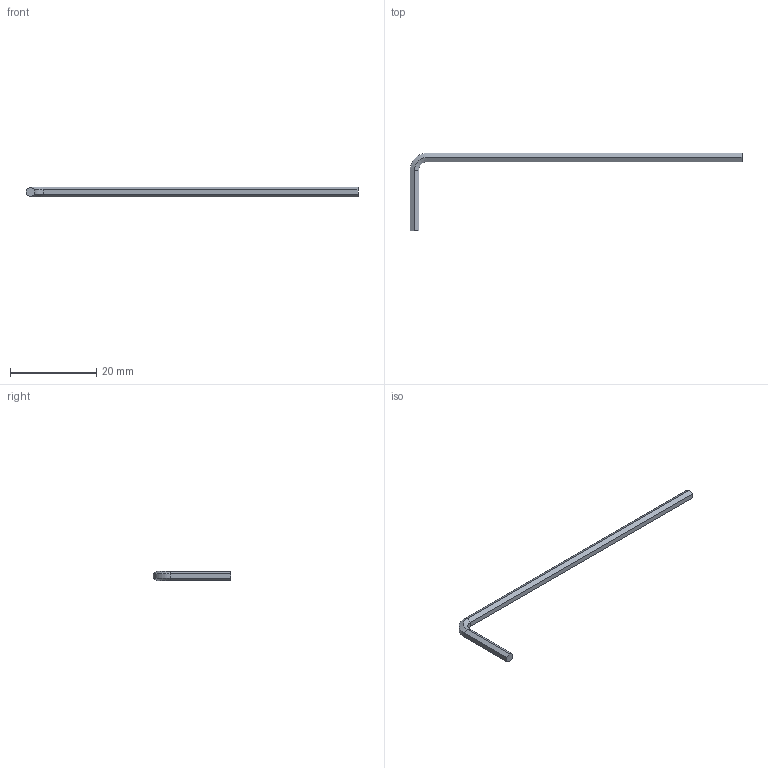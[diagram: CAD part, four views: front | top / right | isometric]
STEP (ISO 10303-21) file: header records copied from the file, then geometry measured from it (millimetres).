
FILE_DESCRIPTION(/* description */ (''),/* implementation_level */ '2;1');
FILE_NAME(/* name */ 'C:\Users\D\Documents\Inventor\各種小物\JIS\02-分解工具\六角棒スパナ2\hk-2-M.stp',/* time_stamp */ '2022-04-21T13:53:50+09:00',/* author */ ('D'),/* organization */ (''),/* preprocessor_version */ 'ST-DEVELOPER v18',/* originating_system */ 'Autodesk Inventor 2020',/* authorisation */ '');
FILE_SCHEMA (('AUTOMOTIVE_DESIGN { 1 0 10303 214 3 1 1 }'));
Length unit declared in the file: millimetre
Products named in the file (1): hk-0.7
Bounding box: 77 x 18 x 2.31 mm (x, y, z)
Volume: 317.7 mm3; surface area: 642.3 mm2
Topology: 1 solids, 1 shells, 20 faces, 42 edges, 24 vertices
Faces by surface type: plane 14, cone 4, cylinder 2
Entity records: 557 total; most frequent: DIRECTION 90, CARTESIAN_POINT 87, ORIENTED_EDGE 84, EDGE_CURVE 42, LINE 36, VECTOR 36, AXIS2_PLACEMENT_3D 27, VERTEX_POINT 24
